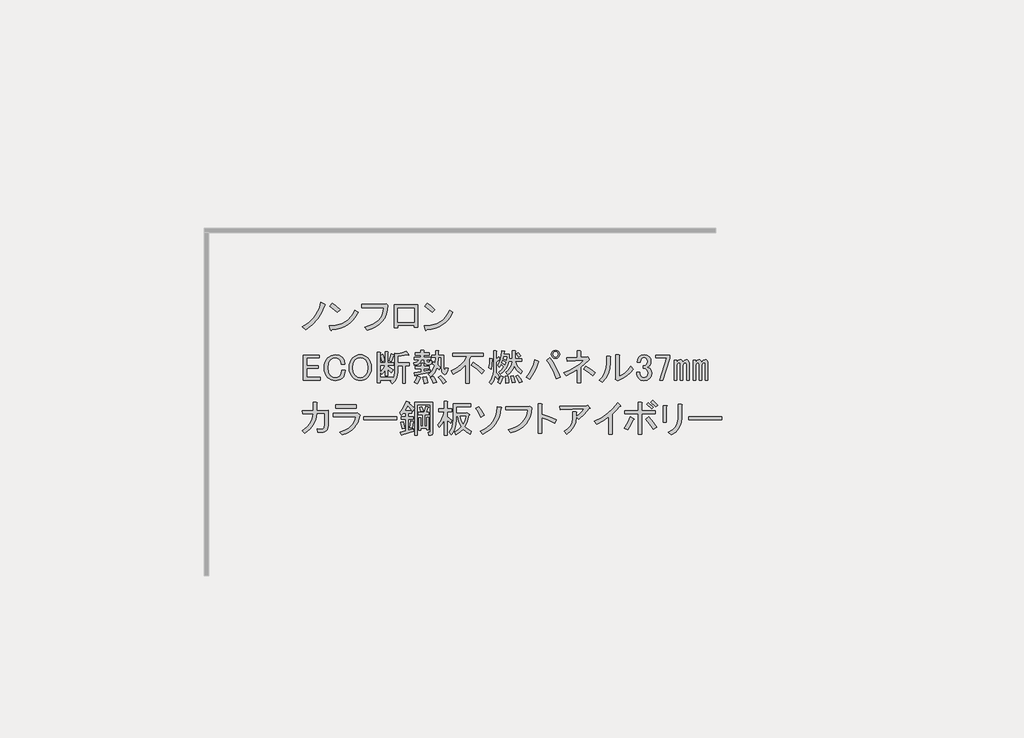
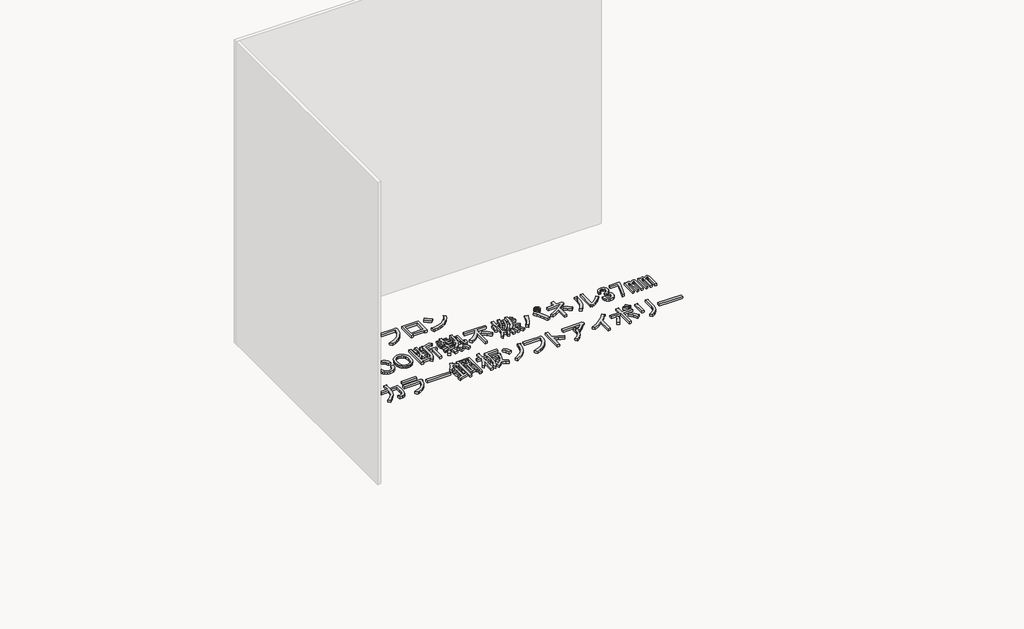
# One storey, part 95 of 117: 1 proxy.
"""IFC4 building model written with IfcOpenShell, lengths in millimetres."""

from ifc_helpers import new_model, si_unit, frame, origin, place, context, project, spatial, polyline, outline, extrude, element, save

model = new_model("IFC4")

# Units and contexts
model_context = context("Model", 3, world=origin())
ifc_project = project(units=[si_unit("LENGTHUNIT", "METRE", prefix="MILLI")], contexts=[model_context])

# Site, building, storey
site = spatial("IfcSite", under=ifc_project)
building = spatial("IfcBuilding", under=site)
storey = spatial("IfcBuildingStorey", under=building, Name="レベル 1", Elevation=500.0)

# Proxy
placement = place(None, origin())
element("IfcBuildingElementProxy", 1, Name="200㎜\u3000MS Pゴシック", ObjectType="200㎜\u3000MS Pゴシック", at=placement, inside=storey, context=model_context, shape_type="SweptSolid", body=[
    extrude(outline(polyline([(24940.1706985, 11396.4503118), (24914.5952502, 11336.6784775), (24886.146156, 11290.7001434), (24844.4782907, 11245.2965385), (24795.3389462, 11207.939142), (24767.7519457, 11229.7788507), (24815.4544673, 11260.2394971), (24855.1107805, 11298.7463519), (24872.4963381, 11322.6694538), (24887.8703435, 11350.7593423), (24901.2327969, 11383.0160173), (24912.5836981, 11419.4394788), (24943.6190736, 11405.6459786), (24946.7800841, 11401.0481452), (24940.1706985, 11396.4503118)])), frame((0.0, 0.0, 500.0), z_axis=(0.0, 0.0, 1.0), x_axis=(1.0, 0.0, 0.0)), (0.0, 0.0, 1.0), 25.0),
    extrude(outline(polyline([(25039.8977052, 11341.2763109), (24981.2753292, 11388.4041033), (25000.8161212, 11412.5427287), (25028.1157571, 11392.7145721), (25061.7374138, 11363.1160196), (25039.8977052, 11341.2763109)])), frame((0.0, 0.0, 500.0), z_axis=(0.0, 0.0, 1.0), x_axis=(1.0, 0.0, 0.0)), (0.0, 0.0, 1.0), 25.0),
    extrude(outline(polyline([(25201.9713328, 11341.2763109), (25185.447869, 11311.534076), (25166.3381239, 11285.5275808), (25144.6420975, 11263.2568252), (25120.3597898, 11244.7218093), (25093.4912008, 11229.922533), (25064.0363306, 11218.8589964), (25031.995179, 11211.5311994), (24997.3677461, 11207.939142), (24991.6204544, 11199.8929336), (24985.8731626, 11205.6402253), (24976.6774958, 11235.5261425), (25012.5082679, 11238.2022252), (25045.2857912, 11244.5062859), (25075.0100658, 11254.4383244), (25101.6810916, 11267.9983409), (25125.2988687, 11285.1863354), (25145.863397, 11306.0023077), (25163.3746766, 11330.446258), (25177.8327074, 11358.5181862), (25201.9713328, 11341.2763109)])), frame((0.0, 0.0, 500.0), z_axis=(0.0, 0.0, 1.0), x_axis=(1.0, 0.0, 0.0)), (0.0, 0.0, 1.0), 25.0),
    extrude(outline(polyline([(25252.7314136, 11226.3304757), (25286.514713, 11236.0110702), (25316.0234641, 11248.3857078), (25341.257667, 11263.4543884), (25362.2173217, 11281.217112), (25378.902428, 11301.6738786), (25391.3129862, 11324.8246882), (25399.4489961, 11350.6695409), (25403.3104577, 11379.2084365), (25230.8917049, 11379.2084365), (25230.8917049, 11404.4965202), (25405.6093744, 11404.4965202), (25421.7017914, 11407.9448953), (25434.3458332, 11396.4503118), (25430.825617, 11359.9550091), (25422.5638851, 11326.9080815), (25409.5606375, 11297.3095289), (25391.8158742, 11271.1593514), (25369.3295952, 11248.457549), (25342.1018005, 11229.2041216), (25310.1324901, 11213.3990692), (25273.421664, 11201.0423919), (25252.7314136, 11226.3304757)])), frame((0.0, 0.0, 500.0), z_axis=(0.0, 0.0, 1.0), x_axis=(1.0, 0.0, 0.0)), (0.0, 0.0, 1.0), 25.0),
    extrude(outline(polyline([(25667.455987, 11227.479934), (25641.0184449, 11227.479934), (25641.0184449, 11240.1239759), (25513.4285679, 11240.1239759), (25513.4285679, 11221.7326423), (25486.9910258, 11221.7326423), (25486.9910258, 11401.0481452), (25667.455987, 11401.0481452), (25667.455987, 11227.479934)]), holes=[polyline([(25513.4285679, 11375.7600614), (25513.4285679, 11265.4120596), (25641.0184449, 11265.4120596), (25641.0184449, 11375.7600614), (25513.4285679, 11375.7600614)])]), frame((0.0, 0.0, 500.0), z_axis=(0.0, 0.0, 1.0), x_axis=(1.0, 0.0, 0.0)), (0.0, 0.0, 1.0), 25.0),
    extrude(outline(polyline([(25943.5099049, 11341.2763109), (25926.9864411, 11311.534076), (25907.876696, 11285.5275808), (25886.1806696, 11263.2568252), (25861.8983619, 11244.7218093), (25835.0297729, 11229.922533), (25805.5749026, 11218.8589964), (25773.5337511, 11211.5311994), (25738.9063182, 11207.939142), (25733.1590264, 11199.8929336), (25727.4117347, 11205.6402253), (25718.2160679, 11235.5261425), (25754.0468399, 11238.2022252), (25786.8243633, 11244.5062859), (25816.5486378, 11254.4383244), (25843.2196637, 11267.9983409), (25866.8374407, 11285.1863354), (25887.4019691, 11306.0023077), (25904.9132486, 11330.446258), (25919.3712795, 11358.5181862), (25943.5099049, 11341.2763109)])), frame((0.0, 0.0, 500.0), z_axis=(0.0, 0.0, 1.0), x_axis=(1.0, 0.0, 0.0)), (0.0, 0.0, 1.0), 25.0),
    extrude(outline(polyline([(25781.4362772, 11341.2763109), (25722.8139013, 11388.4041033), (25742.3546933, 11412.5427287), (25769.6543291, 11392.7145721), (25803.2759859, 11363.1160196), (25781.4362772, 11341.2763109)])), frame((0.0, 0.0, 500.0), z_axis=(0.0, 0.0, 1.0), x_axis=(1.0, 0.0, 0.0)), (0.0, 0.0, 1.0), 25.0),
    extrude(outline(polyline([(24773.4992375, 11007.9448953), (24899.9396562, 11007.9448953), (24899.9396562, 10986.1051866), (24799.9367796, 10986.1051866), (24799.9367796, 10925.183894), (24893.0429061, 10925.183894), (24893.0429061, 10903.3441853), (24799.9367796, 10903.3441853), (24799.9367796, 10833.2272258), (24905.686948, 10833.2272258), (24905.686948, 10811.3875171), (24773.4992375, 10811.3875171), (24773.4992375, 11007.9448953)])), frame((0.0, 0.0, 500.0), z_axis=(0.0, 0.0, 1.0), x_axis=(1.0, 0.0, 0.0)), (0.0, 0.0, 1.0), 25.0),
    extrude(outline(polyline([(24937.7798252, 10909.091477), (24939.5758538, 10933.014579), (24944.9639399, 10954.2077173), (24953.9440832, 10972.6708921), (24966.516284, 10988.4041033), (24991.5170031, 11004.7838848), (25022.8397432, 11010.243812), (25053.5877541, 11005.358614), (25076.8642858, 10990.70302), (25092.6693381, 10967.1391238), (25098.7039944, 10937.8279358), (25071.116994, 10937.8279358), (25066.231796, 10959.0929153), (25056.1740354, 10974.6106031), (25040.9437123, 10984.9557283), (25022.8397432, 10988.4041033), (25003.2989512, 10984.3809991), (24986.0570759, 10972.3116864), (24977.0050914, 10960.6015794), (24970.5393882, 10946.1615089), (24965.3668256, 10909.091477), (24970.5393882, 10872.0214452), (24977.0050914, 10857.5813746), (24986.0570759, 10845.8712677), (25002.7242221, 10834.6640487), (25022.8397432, 10830.9283091), (25043.242629, 10834.0893196), (25058.4729521, 10843.572351), (25070.5422648, 10863.1131429), (25074.5653691, 10889.550685), (25102.1523695, 10889.550685), (25095.8303486, 10854.7795699), (25088.7899162, 10840.6268639), (25079.1632025, 10828.6293924), (25068.3151893, 10820.0802959), (25055.3119417, 10813.9737984), (25022.8397432, 10809.0886004), (24991.5170031, 10814.5485276), (24966.516284, 10830.9283091), (24953.9440832, 10846.5896791), (24944.9639399, 10864.8373305), (24939.5758538, 10885.6712631), (24937.7798252, 10909.091477)])), frame((0.0, 0.0, 500.0), z_axis=(0.0, 0.0, 1.0), x_axis=(1.0, 0.0, 0.0)), (0.0, 0.0, 1.0), 25.0),
    extrude(outline(polyline([(25133.1417667, 10910.2409354), (25134.8659542, 10933.0864201), (25140.0385168, 10953.3456236), (25148.6594544, 10971.0185457), (25160.7287671, 10986.1051866), (25173.4446501, 10996.6658352), (25187.4536738, 11004.2091557), (25202.7558381, 11008.7351479), (25219.3511431, 11010.243812), (25235.946448, 11008.7351479), (25251.2486123, 11004.2091557), (25265.257636, 10996.6658352), (25277.973519, 10986.1051866), (25290.0428317, 10971.0185457), (25298.6637694, 10953.3456236), (25303.836332, 10933.0864201), (25305.5605195, 10910.2409354), (25303.836332, 10887.3954506), (25298.6637694, 10867.1362472), (25290.0428317, 10849.463325), (25277.973519, 10834.3766841), (25265.257636, 10823.8160355), (25251.2486123, 10816.2727151), (25235.946448, 10811.7467228), (25219.3511431, 10810.2380587), (25202.7558381, 10811.7467228), (25187.4536738, 10816.2727151), (25173.4446501, 10823.8160355), (25160.7287671, 10834.3766841), (25148.6594544, 10849.463325), (25140.0385168, 10867.1362472), (25134.8659542, 10887.3954506), (25133.1417667, 10910.2409354)]), holes=[polyline([(25219.3511431, 10988.4041033), (25198.6608927, 10984.0936345), (25180.2695591, 10971.162228), (25171.7204626, 10960.0268502), (25165.6139651, 10946.1615089), (25160.7287671, 10910.2409354), (25165.6139651, 10874.3203619), (25171.7204626, 10860.4550205), (25180.2695591, 10849.3196427), (25198.6608927, 10836.3882363), (25219.3511431, 10832.0777674), (25240.0413934, 10836.3882363), (25258.432727, 10849.3196427), (25266.9818235, 10860.4550205), (25273.088321, 10874.3203619), (25277.973519, 10910.2409354), (25273.088321, 10946.1615089), (25266.9818235, 10960.0268502), (25258.432727, 10971.162228), (25240.0413934, 10984.0936345), (25219.3511431, 10988.4041033)])]), frame((0.0, 0.0, 500.0), z_axis=(0.0, 0.0, 1.0), x_axis=(1.0, 0.0, 0.0)), (0.0, 0.0, 1.0), 25.0),
    extrude(outline(polyline([(25444.3691101, 10964.2654779), (25461.6109854, 11017.1405621), (25482.3012357, 11011.3932704), (25484.0254232, 11008.2322599), (25480.002319, 11005.6459786), (25462.7604437, 10957.3687278), (25444.3691101, 10964.2654779)])), frame((0.0, 0.0, 500.0), z_axis=(0.0, 0.0, 1.0), x_axis=(1.0, 0.0, 0.0)), (0.0, 0.0, 1.0), 25.0),
    extrude(outline(polyline([(25598.3965292, 11012.5427287), (25596.6723417, 11007.9448953), (25589.2008624, 11010.243812), (25512.1871528, 10997.5997701), (25512.1871528, 10948.173061), (25604.143821, 10948.173061), (25604.143821, 10926.3333523), (25573.1084455, 10926.3333523), (25573.1084455, 10786.0994334), (25550.1192785, 10786.0994334), (25550.1192785, 10926.3333523), (25512.1871528, 10926.3333523), (25512.1871528, 10876.9066432), (25509.6008716, 10849.1041193), (25501.8420277, 10824.3189236), (25488.9106212, 10802.551056), (25470.8066522, 10783.8005167), (25453.5647769, 10803.3413086), (25463.9099021, 10812.5369755), (25374.2521506, 10812.5369755), (25374.2521506, 10790.6972668), (25351.2629836, 10790.6972668), (25351.2629836, 11029.784604), (25373.1026922, 11029.784604), (25377.9878902, 11027.4856873), (25374.2521506, 11022.8878539), (25374.2521506, 10947.0236026), (25416.7821096, 10947.0236026), (25416.7821096, 11034.3824374), (25435.1734433, 11034.3824374), (25440.0586413, 11032.0835207), (25436.3229016, 11027.4856873), (25436.3229016, 10947.0236026), (25480.002319, 10947.0236026), (25480.002319, 10928.632269), (25436.3229016, 10928.632269), (25436.3229016, 10919.4366022), (25476.5539439, 10892.9990601), (25462.7604437, 10871.1593514), (25436.3229016, 10897.5968935), (25436.3229016, 10844.7218093), (25416.7821096, 10844.7218093), (25416.7821096, 10892.9990601), (25403.5633386, 10873.1709035), (25389.1951092, 10857.3658512), (25376.5510673, 10875.7571848), (25398.390776, 10899.8958102), (25415.6326513, 10928.632269), (25374.2521506, 10928.632269), (25374.2521506, 10834.3766841), (25471.9561105, 10834.3766841), (25471.9561105, 10820.5831839), (25484.887517, 10844.7218093), (25489.1979858, 10878.0561015), (25489.1979858, 11022.8878539), (25511.0376945, 11017.1405621), (25547.2456326, 11024.6120414), (25577.7062789, 11037.8308125), (25598.3965292, 11012.5427287)])), frame((0.0, 0.0, 500.0), z_axis=(0.0, 0.0, 1.0), x_axis=(1.0, 0.0, 0.0)), (0.0, 0.0, 1.0), 25.0),
    extrude(outline(polyline([(25390.3445675, 10956.2192695), (25377.7005257, 11006.7954369), (25397.2413176, 11013.6921871), (25405.0001615, 10989.5535617), (25409.8853595, 10963.1160196), (25390.3445675, 10956.2192695)])), frame((0.0, 0.0, 500.0), z_axis=(0.0, 0.0, 1.0), x_axis=(1.0, 0.0, 0.0)), (0.0, 0.0, 1.0), 25.0),
    extrude(outline(polyline([(25734.0326148, 10840.1239759), (25744.0903754, 10812.82434), (25748.9755734, 10790.6972668), (25720.2391146, 10784.949975), (25717.6528333, 10806.5023191), (25709.8939894, 10836.6756008), (25734.0326148, 10840.1239759)])), frame((0.0, 0.0, 500.0), z_axis=(0.0, 0.0, 1.0), x_axis=(1.0, 0.0, 0.0)), (0.0, 0.0, 1.0), 25.0),
    extrude(outline(polyline([(25790.356074, 10787.2488917), (25782.022501, 10811.9622463), (25768.5163654, 10833.2272258), (25789.2066157, 10841.2734343), (25806.1611264, 10819.7210902), (25817.9430745, 10796.4445585), (25790.356074, 10787.2488917)])), frame((0.0, 0.0, 500.0), z_axis=(0.0, 0.0, 1.0), x_axis=(1.0, 0.0, 0.0)), (0.0, 0.0, 1.0), 25.0),
    extrude(outline(polyline([(25689.2037391, 10835.5261425), (25692.6521141, 10830.6409445), (25686.9048224, 10827.479934), (25677.1344264, 10801.9044857), (25666.214572, 10782.6510583), (25643.225405, 10794.1456418), (25655.8694469, 10817.709538), (25666.214572, 10844.7218093), (25689.2037391, 10835.5261425)])), frame((0.0, 0.0, 500.0), z_axis=(0.0, 0.0, 1.0), x_axis=(1.0, 0.0, 0.0)), (0.0, 0.0, 1.0), 25.0),
    extrude(outline(polyline([(25721.3885729, 10972.3116864), (25696.1004892, 10972.3116864), (25691.5026558, 10954.8542877), (25681.1575306, 10941.5636755), (25665.0651137, 10932.4398498), (25643.225405, 10927.4828107), (25638.6275716, 10947.0236026), (25663.9156553, 10955.6445403), (25671.3871346, 10962.9723373), (25675.4102388, 10972.3116864), (25639.7770299, 10972.3116864), (25639.7770299, 10990.70302), (25693.8015725, 10990.70302), (25693.8015725, 11007.9448953), (25650.1221551, 11007.9448953), (25650.1221551, 11026.3362289), (25693.8015725, 11026.3362289), (25693.8015725, 11044.7275626), (25715.6412812, 11044.7275626), (25720.5264792, 11042.4286459), (25716.7907395, 11037.8308125), (25716.7907395, 11026.3362289), (25759.3206985, 11026.3362289), (25759.3206985, 11007.9448953), (25716.7907395, 11007.9448953), (25716.7907395, 10990.70302), (25769.6658237, 10990.70302), (25769.6658237, 10972.3116864), (25740.9293649, 10972.3116864), (25740.9293649, 10959.6676445), (25742.3661878, 10954.4950819), (25746.6766567, 10952.7708944), (25757.0217818, 10952.7708944), (25760.7575215, 10955.9319049), (25760.4701569, 10965.4149363), (25780.0109489, 10963.1160196), (25777.137303, 10941.5636755), (25771.8210581, 10936.1755894), (25763.9185319, 10934.3795608), (25739.7799066, 10934.3795608), (25725.9864063, 10939.2647588), (25721.3885729, 10953.9203528), (25721.3885729, 10972.3116864)])), frame((0.0, 0.0, 500.0), z_axis=(0.0, 0.0, 1.0), x_axis=(1.0, 0.0, 0.0)), (0.0, 0.0, 1.0), 25.0),
    extrude(outline(polyline([(25852.4268251, 10989.5535617), (25830.5871164, 10989.5535617), (25825.989283, 10932.0806441), (25845.5300749, 10913.6893104), (25835.1849498, 10891.8496017), (25819.0925328, 10907.9420187), (25799.8391054, 10870.2972576), (25769.6658237, 10837.8250592), (25752.4239484, 10858.5153095), (25767.5105893, 10870.4409399), (25780.585678, 10885.5275808), (25791.6492147, 10903.7752321), (25800.7011992, 10925.183894), (25783.4593239, 10940.1268525), (25791.5055324, 10957.3687278), (25805.2990326, 10947.0236026), (25807.5979493, 10989.5535617), (25780.0109489, 10989.5535617), (25780.0109489, 11007.9448953), (25807.5979493, 11007.9448953), (25807.5979493, 11042.4286459), (25829.437658, 11042.4286459), (25834.322856, 11040.1297292), (25830.5871164, 11035.5318957), (25830.5871164, 11007.9448953), (25871.967617, 11007.9448953), (25871.967617, 10911.3903937), (25875.4159921, 10887.2517683), (25878.6488437, 10885.2402162), (25881.4506484, 10888.4012267), (25885.7611173, 10910.2409354), (25905.3019092, 10903.3441853), (25900.775917, 10876.5474374), (25892.945232, 10860.5268616), (25881.8098542, 10855.2824579), (25867.3697836, 10860.8142262), (25860.8322393, 10868.1420232), (25856.1625647, 10879.780289), (25852.4268251, 10915.9882271), (25852.4268251, 10989.5535617)])), frame((0.0, 0.0, 500.0), z_axis=(0.0, 0.0, 1.0), x_axis=(1.0, 0.0, 0.0)), (0.0, 0.0, 1.0), 25.0),
    extrude(outline(polyline([(25651.2716134, 10850.4691011), (25649.2600613, 10845.5839031), (25645.5243217, 10847.020726), (25639.7770299, 10871.1593514), (25694.9510308, 10879.2055599), (25694.9510308, 10902.1947269), (25651.2716134, 10902.1947269), (25651.2716134, 10920.5860605), (25694.9510308, 10920.5860605), (25694.9510308, 10943.5752276), (25713.3423645, 10943.5752276), (25718.2275625, 10941.2763109), (25714.4918228, 10936.6784775), (25714.4918228, 10920.5860605), (25759.3206985, 10920.5860605), (25759.3206985, 10902.1947269), (25714.4918228, 10902.1947269), (25714.4918228, 10882.6539349), (25765.0679903, 10891.8496017), (25765.0679903, 10875.7571848), (25651.2716134, 10850.4691011)])), frame((0.0, 0.0, 500.0), z_axis=(0.0, 0.0, 1.0), x_axis=(1.0, 0.0, 0.0)), (0.0, 0.0, 1.0), 25.0),
    extrude(outline(polyline([(25848.97845, 10845.8712677), (25873.6918046, 10824.6062881), (25892.6578674, 10799.8929336), (25866.2203253, 10784.949975), (25846.9668979, 10814.5485276), (25828.2881997, 10834.3766841), (25848.97845, 10845.8712677)])), frame((0.0, 0.0, 500.0), z_axis=(0.0, 0.0, 1.0), x_axis=(1.0, 0.0, 0.0)), (0.0, 0.0, 1.0), 25.0),
    extrude(outline(polyline([(26167.3784135, 10861.9636846), (26128.2968295, 10900.1831748), (26086.9163289, 10929.7817274), (26103.0087458, 10950.4719777), (26146.6881632, 10922.3102481), (26188.0686638, 10883.8033933), (26167.3784135, 10861.9636846)])), frame((0.0, 0.0, 500.0), z_axis=(0.0, 0.0, 1.0), x_axis=(1.0, 0.0, 0.0)), (0.0, 0.0, 1.0), 25.0),
    extrude(outline(polyline([(25940.9351182, 11022.8878539), (26182.3213721, 11022.8878539), (26182.3213721, 10997.5997701), (26082.3184955, 10997.5997701), (26071.9733703, 10973.4611447), (26071.9733703, 10787.2488917), (26045.5358282, 10787.2488917), (26045.5358282, 10934.3795608), (26024.7018956, 10911.1030291), (26001.2816816, 10890.7001434), (25975.2751864, 10873.1709035), (25946.6824099, 10858.5153095), (25930.589993, 10884.9528516), (25970.174465, 10905.3557374), (26003.8679629, 10930.9311857), (26031.6704868, 10961.6791966), (26053.5820367, 10997.5997701), (25940.9351182, 10997.5997701), (25940.9351182, 11022.8878539)])), frame((0.0, 0.0, 500.0), z_axis=(0.0, 0.0, 1.0), x_axis=(1.0, 0.0, 0.0)), (0.0, 0.0, 1.0), 25.0),
    extrude(outline(polyline([(26354.7401249, 10788.3983501), (26355.3148541, 10815.4106213), (26352.4412082, 10843.572351), (26371.9820002, 10844.7218093), (26378.3040211, 10818.5716318), (26378.8787503, 10790.6972668), (26354.7401249, 10788.3983501)])), frame((0.0, 0.0, 500.0), z_axis=(0.0, 0.0, 1.0), x_axis=(1.0, 0.0, 0.0)), (0.0, 0.0, 1.0), 25.0),
    extrude(outline(polyline([(26335.1993329, 10840.1239759), (26326.5783953, 10809.6633296), (26312.2101659, 10782.6510583), (26292.6693739, 10795.2951002), (26306.7502387, 10820.0084547), (26316.8079993, 10848.1701844), (26335.1993329, 10840.1239759)])), frame((0.0, 0.0, 500.0), z_axis=(0.0, 0.0, 1.0), x_axis=(1.0, 0.0, 0.0)), (0.0, 0.0, 1.0), 25.0),
    extrude(outline(polyline([(26250.1394149, 10978.0589781), (26254.7372483, 10975.7600614), (26250.1394149, 10971.162228), (26248.9899565, 10931.5059149), (26243.2426647, 10897.5968935), (26224.8513311, 10910.2409354), (26230.5986229, 10944.7246859), (26231.7480812, 10981.5073532), (26250.1394149, 10978.0589781)])), frame((0.0, 0.0, 500.0), z_axis=(0.0, 0.0, 1.0), x_axis=(1.0, 0.0, 0.0)), (0.0, 0.0, 1.0), 25.0),
    extrude(outline(polyline([(26301.8650407, 10996.4503118), (26311.0607075, 10979.2084365), (26312.4975305, 10973.1737801), (26307.6123325, 10973.4611447), (26281.1747904, 10952.7708944), (26281.1747904, 10868.8604347), (26294.9682906, 10856.5037574), (26306.4628741, 10840.1239759), (26293.8188322, 10819.4337256), (26275.4274986, 10844.7218093), (26263.6455505, 10808.8012358), (26242.0932064, 10779.2026832), (26227.1502478, 10797.5940169), (26242.2368887, 10816.3445562), (26253.0130607, 10836.9629654), (26259.478764, 10859.4492444), (26261.6339984, 10883.8033933), (26261.6339984, 11041.2791875), (26280.025332, 11041.2791875), (26284.91053, 11038.9802708), (26281.1747904, 11034.3824374), (26281.1747904, 10975.7600614), (26301.8650407, 10996.4503118)])), frame((0.0, 0.0, 500.0), z_axis=(0.0, 0.0, 1.0), x_axis=(1.0, 0.0, 0.0)), (0.0, 0.0, 1.0), 25.0),
    extrude(outline(polyline([(26452.4440848, 11027.4856873), (26474.2837935, 11003.3470619), (26457.0419182, 10991.8524784), (26450.4325327, 11003.3470619), (26437.5011262, 11017.1405621), (26452.4440848, 11027.4856873)])), frame((0.0, 0.0, 500.0), z_axis=(0.0, 0.0, 1.0), x_axis=(1.0, 0.0, 0.0)), (0.0, 0.0, 1.0), 25.0),
    extrude(outline(polyline([(26462.78921, 10790.6972668), (26449.5704389, 10818.8589964), (26432.9032928, 10843.572351), (26451.2946265, 10851.6185594), (26470.2606893, 10828.6293924), (26485.778377, 10801.0423919), (26462.78921, 10790.6972668)])), frame((0.0, 0.0, 500.0), z_axis=(0.0, 0.0, 1.0), x_axis=(1.0, 0.0, 0.0)), (0.0, 0.0, 1.0), 25.0),
    extrude(outline(polyline([(26413.3625008, 10845.8712677), (26431.7538345, 10796.4445585), (26407.6152091, 10791.8467251), (26393.8217089, 10842.4228926), (26413.3625008, 10845.8712677)])), frame((0.0, 0.0, 500.0), z_axis=(0.0, 0.0, 1.0), x_axis=(1.0, 0.0, 0.0)), (0.0, 0.0, 1.0), 25.0),
    extrude(outline(polyline([(26474.2837935, 10860.8142262), (26443.5357826, 10891.2748726), (26422.5581677, 10925.183894), (26414.1527535, 10903.0568207), (26402.7300111, 10883.8033933), (26388.2899405, 10867.4236118), (26370.8325418, 10853.9174761), (26357.0390416, 10872.3088098), (26377.8729742, 10891.2030314), (26393.2469797, 10912.2524875), (26403.161058, 10935.457178), (26407.6152091, 10960.8171029), (26378.8787503, 10960.8171029), (26370.904383, 10930.2127742), (26357.3264062, 10902.7694561), (26338.1448199, 10878.4871484), (26313.3596242, 10857.3658512), (26300.7155823, 10873.4582681), (26326.5783953, 10895.0106122), (26342.096083, 10915.9882271), (26320.2563743, 10935.5290191), (26306.4628741, 10914.8387688), (26292.6693739, 10929.7817274), (26305.0978923, 10948.8196313), (26314.7964472, 10973.7485093), (26321.7650384, 11004.5683614), (26326.0036661, 11041.2791875), (26346.6939164, 11038.9802708), (26350.1422915, 11036.3939895), (26344.3949997, 11033.232979), (26342.096083, 11014.8416454), (26385.7755004, 11014.8416454), (26382.3271253, 10979.2084365), (26407.6152091, 10979.2084365), (26407.6152091, 11041.2791875), (26429.4549178, 11041.2791875), (26434.3401158, 11038.9802708), (26430.6043761, 11034.3824374), (26430.6043761, 10979.2084365), (26480.0310853, 10979.2084365), (26480.0310853, 10960.8171029), (26430.6043761, 10960.8171029), (26437.1419205, 10939.0492353), (26448.7083452, 10918.5745084), (26465.3036501, 10899.3929222), (26486.9278354, 10881.5044766), (26474.2837935, 10860.8142262)]), holes=[polyline([(26350.1422915, 10930.9311857), (26357.0390416, 10950.4719777), (26331.7509579, 10966.5643946), (26326.0036661, 10949.3225193), (26350.1422915, 10930.9311857)]), polyline([(26339.7971663, 10996.4503118), (26336.3487913, 10980.3578948), (26361.636875, 10966.5643946), (26366.2347084, 10996.4503118), (26339.7971663, 10996.4503118)])]), frame((0.0, 0.0, 500.0), z_axis=(0.0, 0.0, 1.0), x_axis=(1.0, 0.0, 0.0)), (0.0, 0.0, 1.0), 25.0),
    extrude(outline(polyline([(26699.5776305, 10987.254645), (26726.230696, 10950.5438188), (26748.7169751, 10912.8272167), (26767.0364675, 10874.1048384), (26781.1891735, 10834.3766841), (26750.153798, 10824.031559), (26734.7079514, 10867.1362472), (26717.1068704, 10905.643102), (26697.350555, 10939.5521234), (26675.4390051, 10968.8633113), (26699.5776305, 10987.254645)])), frame((0.0, 0.0, 500.0), z_axis=(0.0, 0.0, 1.0), x_axis=(1.0, 0.0, 0.0)), (0.0, 0.0, 1.0), 25.0),
    extrude(outline(polyline([(26612.2187958, 10960.8171029), (26616.2419, 10955.3571757), (26609.919879, 10950.4719777), (26597.9942486, 10915.0542922), (26582.9076078, 10881.217112), (26564.6599564, 10848.960437), (26543.2512946, 10818.2842672), (26516.8137525, 10835.5261425), (26540.018443, 10866.9925649), (26559.056347, 10900.4705394), (26573.9274644, 10935.960066), (26584.6317953, 10973.4611447), (26612.2187958, 10960.8171029)])), frame((0.0, 0.0, 500.0), z_axis=(0.0, 0.0, 1.0), x_axis=(1.0, 0.0, 0.0)), (0.0, 0.0, 1.0), 25.0),
    extrude(outline(polyline([(26745.5559646, 10981.5073532), (26732.9119227, 10983.8062699), (26722.5667975, 10990.70302), (26715.6700474, 11001.0481452), (26713.3711307, 11013.6921871), (26715.6700474, 11026.3362289), (26722.5667975, 11036.6813541), (26732.9119227, 11043.5781042), (26745.5559646, 11045.8770209), (26758.2000065, 11043.5781042), (26768.5451316, 11036.6813541), (26775.4418817, 11026.3362289), (26777.7407984, 11013.6921871), (26775.4418817, 11001.0481452), (26768.5451316, 10990.70302), (26758.2000065, 10983.8062699), (26745.5559646, 10981.5073532)]), holes=[polyline([(26745.5559646, 10993.0019367), (26753.8895376, 10994.4387597), (26760.4989232, 10998.7492285), (26764.809392, 11005.358614), (26766.2462149, 11013.6921871), (26764.809392, 11022.0257601), (26760.4989232, 11028.6351456), (26753.8895376, 11032.9456145), (26745.5559646, 11034.3824374), (26737.2223915, 11032.9456145), (26730.613006, 11028.6351456), (26726.3025372, 11022.0257601), (26724.8657143, 11013.6921871), (26726.3025372, 11005.358614), (26730.613006, 10998.7492285), (26737.2223915, 10994.4387597), (26745.5559646, 10993.0019367)])]), frame((0.0, 0.0, 500.0), z_axis=(0.0, 0.0, 1.0), x_axis=(1.0, 0.0, 0.0)), (0.0, 0.0, 1.0), 25.0),
    extrude(outline(polyline([(26989.2411352, 10991.8524784), (26996.1378853, 10994.1513951), (27008.7819272, 10976.9095198), (27009.9313856, 10970.8748634), (27004.1840938, 10968.8633113), (26940.9638844, 10912.5398521), (26940.9638844, 10791.8467251), (26914.5263423, 10791.8467251), (26914.5263423, 10894.1485184), (26874.2953, 10870.0098931), (26829.4664243, 10848.1701844), (26809.9256323, 10868.8604347), (26855.4729195, 10888.3293855), (26896.7097379, 10911.1030291), (26933.6360874, 10937.1813655), (26966.2519682, 10966.5643946), (26836.3631744, 10960.8171029), (26832.9147993, 10986.1051866), (26914.5263423, 10988.4041033), (26914.5263423, 11040.1297292), (26937.5155094, 11040.1297292), (26943.5501657, 11036.6813541), (26940.9638844, 11030.9340623), (26940.9638844, 10989.5535617), (26989.2411352, 10991.8524784)])), frame((0.0, 0.0, 500.0), z_axis=(0.0, 0.0, 1.0), x_axis=(1.0, 0.0, 0.0)), (0.0, 0.0, 1.0), 25.0),
    extrude(outline(polyline([(27035.2194693, 10848.1701844), (26998.1494375, 10877.4813723), (26965.1025098, 10898.7463519), (26982.3443851, 10920.5860605), (27021.1386045, 10897.3095289), (27054.7602613, 10871.1593514), (27035.2194693, 10848.1701844)])), frame((0.0, 0.0, 500.0), z_axis=(0.0, 0.0, 1.0), x_axis=(1.0, 0.0, 0.0)), (0.0, 0.0, 1.0), 25.0),
    extrude(outline(polyline([(27242.2139293, 10841.2734343), (27266.9991251, 10853.4864292), (27290.7785447, 10870.5846222), (27313.5521883, 10892.5680132), (27335.3200559, 10919.4366022), (27351.4124728, 10897.5968935), (27328.1359412, 10869.7943696), (27301.9857636, 10846.1586322), (27272.9619403, 10826.6896814), (27241.064471, 10811.3875171), (27231.8688042, 10806.7896837), (27213.4774705, 10820.5831839), (27215.7763872, 10826.3304757), (27215.7763872, 11011.3932704), (27239.9150126, 11011.3932704), (27245.6623044, 11007.9448953), (27242.2139293, 11002.1976035), (27242.2139293, 10841.2734343)])), frame((0.0, 0.0, 500.0), z_axis=(0.0, 0.0, 1.0), x_axis=(1.0, 0.0, 0.0)), (0.0, 0.0, 1.0), 25.0),
    extrude(outline(polyline([(27088.1865102, 10810.2380587), (27113.3309116, 10839.4774056), (27131.2911984, 10872.0214452), (27142.0673704, 10907.8701775), (27145.6594278, 10947.0236026), (27145.6594278, 10998.7492285), (27169.7980532, 10998.7492285), (27175.5453449, 10995.3008534), (27172.0969699, 10989.5535617), (27172.0969699, 10948.173061), (27168.2893891, 10902.4102504), (27156.8666467, 10861.67632), (27137.8287427, 10825.9712699), (27111.1756772, 10795.2951002), (27088.1865102, 10810.2380587)])), frame((0.0, 0.0, 500.0), z_axis=(0.0, 0.0, 1.0), x_axis=(1.0, 0.0, 0.0)), (0.0, 0.0, 1.0), 25.0),
    extrude(outline(polyline([(27383.5973066, 10951.621436), (27387.9077755, 10975.7600614), (27400.8391819, 10995.3008534), (27417.506328, 11006.5080724), (27437.6218492, 11010.243812), (27460.3236516, 11006.5080724), (27477.8528915, 10995.3008534), (27488.1980167, 10979.2084365), (27491.6463917, 10958.5181862), (27488.7727459, 10938.402665), (27480.1518082, 10924.0344356), (27471.8182352, 10917.7124147), (27462.9099329, 10914.8387688), (27482.4507249, 10903.3441853), (27492.7958501, 10887.2517683), (27496.2442251, 10866.561518), (27492.2211209, 10843.572351), (27480.1518082, 10825.1810173), (27460.8983808, 10813.1117046), (27435.3229325, 10809.0886004), (27413.1958592, 10813.1117046), (27395.0918902, 10825.1810173), (27383.0225775, 10842.7102572), (27378.9994732, 10863.1131429), (27378.9994732, 10872.3088098), (27405.4370153, 10872.3088098), (27405.4370153, 10864.2626013), (27408.0232966, 10850.4691011), (27415.7821405, 10838.9745175), (27424.6904427, 10832.9398612), (27435.3229325, 10830.9283091), (27448.8290681, 10833.2272258), (27459.4615579, 10840.1239759), (27466.358308, 10851.905924), (27468.6572247, 10868.8604347), (27466.358308, 10883.2286641), (27459.4615579, 10894.1485184), (27449.6911619, 10901.0452686), (27438.7713075, 10903.3441853), (27429.5756407, 10903.3441853), (27429.5756407, 10922.8849772), (27436.4723908, 10922.8849772), (27446.5301514, 10925.183894), (27456.0131828, 10932.0806441), (27462.9099329, 10943.287863), (27465.2088496, 10958.5181862), (27462.9099329, 10972.0243218), (27456.0131828, 10982.6568116), (27447.9669744, 10987.8293741), (27437.6218492, 10989.5535617), (27427.8514532, 10987.5420096), (27419.2305156, 10981.5073532), (27412.0464009, 10969.4380405), (27408.8853904, 10951.621436), (27383.5973066, 10951.621436)])), frame((0.0, 0.0, 500.0), z_axis=(0.0, 0.0, 1.0), x_axis=(1.0, 0.0, 0.0)), (0.0, 0.0, 1.0), 25.0),
    extrude(outline(polyline([(27530.7279757, 11007.9448953), (27639.9265191, 11007.9448953), (27639.9265191, 10982.6568116), (27584.7525182, 10811.3875171), (27559.4644345, 10811.3875171), (27614.6384354, 10986.1051866), (27530.7279757, 10986.1051866), (27530.7279757, 11007.9448953)])), frame((0.0, 0.0, 500.0), z_axis=(0.0, 0.0, 1.0), x_axis=(1.0, 0.0, 0.0)), (0.0, 0.0, 1.0), 25.0),
    extrude(outline(polyline([(27692.8016033, 10810.2380587), (27673.2608114, 10810.2380587), (27673.2608114, 10967.713853), (27692.8016033, 10967.713853), (27692.8016033, 10950.4719777), (27704.870916, 10965.9896654), (27718.0896871, 10971.162228), (27727.2853539, 10969.7254051), (27734.182104, 10965.4149363), (27741.0788541, 10951.621436), (27754.0102606, 10966.27703), (27767.5163962, 10971.162228), (27775.8499693, 10969.7254051), (27782.4593548, 10965.4149363), (27787.6319174, 10956.7939986), (27789.3561049, 10944.7246859), (27789.3561049, 10810.2380587), (27769.8153129, 10810.2380587), (27769.8153129, 10934.3795608), (27767.2290316, 10943.8625922), (27759.4701878, 10947.0236026), (27749.1250626, 10942.4257692), (27743.0904062, 10933.8048316), (27741.0788541, 10924.0344356), (27741.0788541, 10810.2380587), (27721.5380621, 10810.2380587), (27721.5380621, 10934.3795608), (27718.9517808, 10943.8625922), (27711.192937, 10947.0236026), (27700.8478118, 10942.4257692), (27694.8131555, 10933.8048316), (27692.8016033, 10924.0344356), (27692.8016033, 10810.2380587)])), frame((0.0, 0.0, 500.0), z_axis=(0.0, 0.0, 1.0), x_axis=(1.0, 0.0, 0.0)), (0.0, 0.0, 1.0), 25.0),
    extrude(outline(polyline([(27914.6470653, 10971.162228), (27922.9806383, 10969.7254051), (27929.5900239, 10965.4149363), (27934.7625864, 10956.7939986), (27936.486774, 10944.7246859), (27936.486774, 10810.2380587), (27916.945982, 10810.2380587), (27916.945982, 10934.3795608), (27914.3597007, 10943.8625922), (27906.6008568, 10947.0236026), (27896.2557317, 10942.4257692), (27890.2210753, 10933.8048316), (27888.2095232, 10924.0344356), (27888.2095232, 10810.2380587), (27868.6687312, 10810.2380587), (27868.6687312, 10934.3795608), (27866.0824499, 10943.8625922), (27858.323606, 10947.0236026), (27847.9784809, 10942.4257692), (27841.9438245, 10933.8048316), (27839.9322724, 10924.0344356), (27839.9322724, 10810.2380587), (27820.3914804, 10810.2380587), (27820.3914804, 10967.713853), (27839.9322724, 10967.713853), (27839.9322724, 10950.4719777), (27852.0015851, 10965.9896654), (27865.2203561, 10971.162228), (27874.416023, 10969.7254051), (27881.3127731, 10965.4149363), (27888.2095232, 10951.621436), (27901.1409296, 10966.27703), (27914.6470653, 10971.162228)])), frame((0.0, 0.0, 500.0), z_axis=(0.0, 0.0, 1.0), x_axis=(1.0, 0.0, 0.0)), (0.0, 0.0, 1.0), 25.0),
    extrude(outline(polyline([(24943.6190736, 10552.7708944), (24878.0999475, 10550.4719777), (24869.8382156, 10504.206279), (24851.94977, 10463.1131429), (24824.4346107, 10427.1925694), (24787.2927377, 10396.4445585), (24767.7519457, 10415.9853505), (24802.7385843, 10444.2189213), (24828.3858738, 10476.0445494), (24844.6938142, 10511.4622349), (24851.6624054, 10550.4719777), (24770.0508624, 10548.173061), (24767.7519457, 10571.162228), (24852.8118638, 10573.4611447), (24852.8118638, 10637.8308125), (24876.9504892, 10637.8308125), (24883.8472393, 10634.3824374), (24879.2494059, 10628.6351456), (24879.2494059, 10573.4611447), (24970.0566157, 10576.9095198), (24970.0566157, 10505.643102), (24967.4703344, 10457.6532158), (24959.7114905, 10426.3304757), (24953.102105, 10416.2727151), (24943.6190736, 10409.0886004), (24931.2623963, 10404.7781316), (24916.0320731, 10403.3413086), (24888.4450727, 10403.3413086), (24884.9966976, 10432.0777674), (24914.8826148, 10429.7788507), (24928.9634796, 10432.6524966), (24936.7223235, 10441.2734343), (24941.8948861, 10466.561518), (24943.6190736, 10505.643102), (24943.6190736, 10552.7708944)])), frame((0.0, 0.0, 500.0), z_axis=(0.0, 0.0, 1.0), x_axis=(1.0, 0.0, 0.0)), (0.0, 0.0, 1.0), 25.0),
    extrude(outline(polyline([(25058.4729521, 10406.7896837), (25108.1151847, 10425.1091762), (25128.3564279, 10437.2323697), (25145.5444223, 10451.3311948), (25159.679168, 10467.4056515), (25170.7606649, 10485.4557397), (25178.7889131, 10505.4814594), (25183.7639125, 10527.4828107), (25009.046243, 10527.4828107), (25009.046243, 10552.7708944), (25184.9133709, 10552.7708944), (25195.258496, 10556.2192695), (25215.9487464, 10543.5752276), (25218.8223922, 10538.1153004), (25213.6498297, 10533.2301024), (25207.5253719, 10505.7508637), (25198.3476653, 10480.7860651), (25186.1167101, 10458.3357067), (25170.832506, 10438.3997884), (25152.4950533, 10420.9783102), (25131.1043517, 10406.0712722), (25106.6604015, 10393.6786744), (25079.1632025, 10383.8005167), (25058.4729521, 10406.7896837)])), frame((0.0, 0.0, 500.0), z_axis=(0.0, 0.0, 1.0), x_axis=(1.0, 0.0, 0.0)), (0.0, 0.0, 1.0), 25.0),
    extrude(outline(polyline([(25188.3617459, 10593.0019367), (25029.7364933, 10593.0019367), (25029.7364933, 10618.2900205), (25188.3617459, 10618.2900205), (25188.3617459, 10593.0019367)])), frame((0.0, 0.0, 500.0), z_axis=(0.0, 0.0, 1.0), x_axis=(1.0, 0.0, 0.0)), (0.0, 0.0, 1.0), 25.0),
    extrude(outline(polyline([(25247.3979269, 10502.1947269), (25247.3979269, 10527.4828107), (25503.7271394, 10527.4828107), (25503.7271394, 10502.1947269), (25247.3979269, 10502.1947269)])), frame((0.0, 0.0, 500.0), z_axis=(0.0, 0.0, 1.0), x_axis=(1.0, 0.0, 0.0)), (0.0, 0.0, 1.0), 25.0),
    extrude(outline(polyline([(25631.0411464, 10568.8633113), (25589.6606458, 10612.5427287), (25567.8209371, 10573.4611447), (25622.994938, 10573.4611447), (25622.994938, 10555.0698111), (25596.5573959, 10555.0698111), (25596.5573959, 10526.3333523), (25634.4895215, 10526.3333523), (25634.4895215, 10507.9420187), (25596.5573959, 10507.9420187), (25596.5573959, 10420.5831839), (25635.6389799, 10430.9283091), (25637.9378966, 10411.3875171), (25545.9812284, 10386.0994334), (25543.6823117, 10380.3521416), (25539.0844783, 10383.8005167), (25532.1877282, 10406.7896837), (25577.0166039, 10415.9853505), (25577.0166039, 10507.9420187), (25539.0844783, 10507.9420187), (25539.0844783, 10526.3333523), (25577.0166039, 10526.3333523), (25577.0166039, 10555.0698111), (25555.1768952, 10555.0698111), (25540.2339366, 10536.6784775), (25527.5898948, 10557.3687278), (25555.7516244, 10595.0134888), (25580.464979, 10645.8770209), (25602.3046876, 10640.1297292), (25605.7530627, 10636.3939895), (25600.0057709, 10634.3824374), (25598.8563126, 10630.9340623), (25643.6851883, 10593.0019367), (25631.0411464, 10568.8633113)])), frame((0.0, 0.0, 500.0), z_axis=(0.0, 0.0, 1.0), x_axis=(1.0, 0.0, 0.0)), (0.0, 0.0, 1.0), 25.0),
    extrude(outline(polyline([(25698.8591892, 10605.6459786), (25706.0433039, 10590.4156554), (25711.5032311, 10570.0127697), (25694.2613558, 10564.2654779), (25682.7667723, 10601.0481452), (25698.8591892, 10605.6459786)])), frame((0.0, 0.0, 500.0), z_axis=(0.0, 0.0, 1.0), x_axis=(1.0, 0.0, 0.0)), (0.0, 0.0, 1.0), 25.0),
    extrude(outline(polyline([(25751.7342734, 10604.4965202), (25754.3205547, 10601.0481452), (25748.2858984, 10597.5997701), (25735.6418565, 10559.6676445), (25756.3321068, 10559.6676445), (25756.3321068, 10541.2763109), (25725.2967313, 10541.2763109), (25725.2967313, 10452.7680178), (25740.2396899, 10452.7680178), (25740.2396899, 10520.5860605), (25756.3321068, 10520.5860605), (25756.3321068, 10426.3304757), (25740.2396899, 10426.3304757), (25740.2396899, 10434.3766841), (25694.2613558, 10434.3766841), (25694.2613558, 10421.7326423), (25678.1689389, 10421.7326423), (25678.1689389, 10518.2871438), (25694.2613558, 10518.2871438), (25694.2613558, 10452.7680178), (25709.2043144, 10452.7680178), (25709.2043144, 10541.2763109), (25673.5711055, 10541.2763109), (25673.5711055, 10559.6676445), (25719.5494396, 10559.6676445), (25729.8945647, 10609.0943537), (25751.7342734, 10604.4965202)])), frame((0.0, 0.0, 500.0), z_axis=(0.0, 0.0, 1.0), x_axis=(1.0, 0.0, 0.0)), (0.0, 0.0, 1.0), 25.0),
    extrude(outline(polyline([(25645.984105, 10637.8308125), (25786.218024, 10637.8308125), (25786.218024, 10397.5940169), (25782.4822843, 10386.3867979), (25771.2750654, 10382.6510583), (25755.1826485, 10382.6510583), (25750.5848151, 10404.490767), (25762.0793986, 10404.490767), (25765.5277736, 10405.6402253), (25766.677232, 10409.0886004), (25766.677232, 10619.4394788), (25665.524897, 10619.4394788), (25665.524897, 10380.3521416), (25645.984105, 10380.3521416), (25645.984105, 10637.8308125)])), frame((0.0, 0.0, 500.0), z_axis=(0.0, 0.0, 1.0), x_axis=(1.0, 0.0, 0.0)), (0.0, 0.0, 1.0), 25.0),
    extrude(outline(polyline([(25634.4895215, 10489.550685), (25637.0758028, 10486.3896746), (25633.3400632, 10483.8033933), (25625.2938547, 10436.6756008), (25606.9025211, 10438.9745175), (25612.6498128, 10492.9990601), (25634.4895215, 10489.550685)])), frame((0.0, 0.0, 500.0), z_axis=(0.0, 0.0, 1.0), x_axis=(1.0, 0.0, 0.0)), (0.0, 0.0, 1.0), 25.0),
    extrude(outline(polyline([(25557.4758119, 10488.4012267), (25568.9703954, 10436.6756008), (25548.2801451, 10430.9283091), (25536.7855616, 10482.6539349), (25557.4758119, 10488.4012267)])), frame((0.0, 0.0, 500.0), z_axis=(0.0, 0.0, 1.0), x_axis=(1.0, 0.0, 0.0)), (0.0, 0.0, 1.0), 25.0),
    extrude(outline(polyline([(25957.4873184, 10409.0886004), (25986.2237772, 10426.3304757), (26008.0634859, 10448.1701844), (25990.2468815, 10490.1254142), (25980.4764855, 10530.9311857), (25967.8324436, 10530.9311857), (25967.8324436, 10506.7925603), (25965.3898446, 10465.0528539), (25958.0620476, 10430.6409445), (25945.8490526, 10403.5568321), (25928.7508596, 10383.8005167), (25914.9573594, 10406.7896837), (25928.0324482, 10424.1752413), (25937.3717973, 10446.4459968), (25942.9754067, 10473.6019504), (25944.8432766, 10505.643102), (25944.8432766, 10626.3362289), (26081.6288204, 10626.3362289), (26081.6288204, 10604.4965202), (25967.8324436, 10604.4965202), (25967.8324436, 10552.7708944), (26047.1450699, 10552.7708944), (26052.8923616, 10558.5181862), (26072.4331536, 10544.7246859), (26073.8699766, 10540.9889463), (26068.9847786, 10536.6784775), (26056.6281013, 10490.1254142), (26037.9494031, 10449.3196427), (26056.9154659, 10430.9283091), (26088.5255706, 10412.5369755), (26079.3299037, 10388.3983501), (26051.4555387, 10404.490767), (26023.0064445, 10429.7788507), (25998.5804545, 10405.3528608), (25966.6829852, 10384.949975), (25957.4873184, 10409.0886004)]), holes=[polyline([(26002.3161942, 10530.9311857), (26010.3624026, 10497.8842581), (26023.0064445, 10470.0098931), (26035.6504864, 10496.1600706), (26043.6966948, 10530.9311857), (26002.3161942, 10530.9311857)])]), frame((0.0, 0.0, 500.0), z_axis=(0.0, 0.0, 1.0), x_axis=(1.0, 0.0, 0.0)), (0.0, 0.0, 1.0), 25.0),
    extrude(outline(polyline([(25874.7263171, 10380.3521416), (25874.7263171, 10499.8958102), (25856.9097126, 10465.6994242), (25837.9436498, 10443.572351), (25826.4490663, 10464.2626013), (25843.6909416, 10486.9644037), (25857.4844418, 10511.3903937), (25867.829567, 10537.5405712), (25874.7263171, 10565.4149363), (25833.3458164, 10565.4149363), (25833.3458164, 10587.254645), (25874.7263171, 10587.254645), (25874.7263171, 10647.0264793), (25896.5660258, 10647.0264793), (25901.4512238, 10644.7275626), (25897.7154841, 10640.1297292), (25897.7154841, 10587.254645), (25935.6476097, 10587.254645), (25935.6476097, 10565.4149363), (25897.7154841, 10565.4149363), (25897.7154841, 10525.183894), (25935.6476097, 10498.7463519), (25925.3024846, 10475.7571848), (25897.7154841, 10498.7463519), (25897.7154841, 10380.3521416), (25874.7263171, 10380.3521416)])), frame((0.0, 0.0, 500.0), z_axis=(0.0, 0.0, 1.0), x_axis=(1.0, 0.0, 0.0)), (0.0, 0.0, 1.0), 25.0),
    extrude(outline(polyline([(26255.1970316, 10486.10231), (26267.3381855, 10506.9362426), (26277.3241049, 10533.8048316), (26285.1547899, 10566.7080769), (26290.8302405, 10605.6459786), (26319.5666993, 10601.0481452), (26324.4518973, 10597.3124055), (26318.417241, 10590.70302), (26313.1728372, 10555.3571757), (26304.3363762, 10522.8849772), (26291.9078577, 10493.2864247), (26275.8872819, 10466.561518), (26259.794865, 10447.5954552), (26237.9551563, 10428.6293924), (26177.0338637, 10390.6972668), (26156.3436133, 10411.3875171), (26187.0916242, 10427.2644106), (26213.8165309, 10445.0091739), (26236.5183334, 10464.621807), (26255.1970316, 10486.10231)])), frame((0.0, 0.0, 500.0), z_axis=(0.0, 0.0, 1.0), x_axis=(1.0, 0.0, 0.0)), (0.0, 0.0, 1.0), 25.0),
    extrude(outline(polyline([(26160.9414467, 10524.0344356), (26140.538561, 10563.4033842), (26120.7104044, 10591.8524784), (26145.9984882, 10605.6459786), (26166.1140093, 10576.9095198), (26187.3789888, 10538.9773942), (26160.9414467, 10524.0344356)])), frame((0.0, 0.0, 500.0), z_axis=(0.0, 0.0, 1.0), x_axis=(1.0, 0.0, 0.0)), (0.0, 0.0, 1.0), 25.0),
    extrude(outline(polyline([(26376.8097253, 10426.3304757), (26410.5930246, 10436.0110702), (26440.1017758, 10448.3857078), (26465.3359786, 10463.4543884), (26486.2956333, 10481.217112), (26502.9807397, 10501.6738786), (26515.3912978, 10524.8246882), (26523.5273077, 10550.6695409), (26527.3887694, 10579.2084365), (26354.9700166, 10579.2084365), (26354.9700166, 10604.4965202), (26529.6876861, 10604.4965202), (26545.780103, 10607.9448953), (26558.4241449, 10596.4503118), (26554.9039287, 10559.9550091), (26546.6421968, 10526.9080815), (26533.6389492, 10497.3095289), (26515.8941859, 10471.1593514), (26493.4079068, 10448.457549), (26466.1801121, 10429.2041216), (26434.2108017, 10413.3990692), (26397.4999756, 10401.0423919), (26376.8097253, 10426.3304757)])), frame((0.0, 0.0, 500.0), z_axis=(0.0, 0.0, 1.0), x_axis=(1.0, 0.0, 0.0)), (0.0, 0.0, 1.0), 25.0),
    extrude(outline(polyline([(26638.6563378, 10545.8741443), (26695.2671617, 10526.9080815), (26752.4527147, 10502.1947269), (26738.6592145, 10475.7571848), (26683.197849, 10501.6199977), (26638.6563378, 10517.1376855), (26638.6563378, 10397.5940169), (26612.2187958, 10397.5940169), (26612.2187958, 10627.4856873), (26635.2079628, 10627.4856873), (26642.9668067, 10624.6120414), (26638.6563378, 10618.2900205), (26638.6563378, 10545.8741443)])), frame((0.0, 0.0, 500.0), z_axis=(0.0, 0.0, 1.0), x_axis=(1.0, 0.0, 0.0)), (0.0, 0.0, 1.0), 25.0),
    extrude(outline(polyline([(26906.9399172, 10525.183894), (26903.1323364, 10483.9470756), (26889.4106773, 10447.5954552), (26865.77494, 10416.1290328), (26832.2251243, 10389.5478084), (26812.6843323, 10411.3875171), (26842.3547261, 10431.6467206), (26863.5478644, 10455.6416637), (26876.2637474, 10483.3723464), (26880.5023751, 10514.8387688), (26880.5023751, 10564.2654779), (26904.6410005, 10564.2654779), (26910.3882923, 10561.6791966), (26906.9399172, 10556.2192695), (26906.9399172, 10526.3333523), (26943.4352199, 10557.0813632), (26970.1601266, 10587.254645), (26782.7984152, 10580.3578948), (26780.4994985, 10606.7954369), (26989.7009186, 10612.5427287), (26997.747127, 10614.8416454), (27014.9890023, 10594.1513951), (27015.2763669, 10590.9903846), (27009.2417105, 10590.70302), (26971.3095849, 10547.3109672), (26926.4807092, 10506.7925603), (26906.9399172, 10525.183894)])), frame((0.0, 0.0, 500.0), z_axis=(0.0, 0.0, 1.0), x_axis=(1.0, 0.0, 0.0)), (0.0, 0.0, 1.0), 25.0),
    extrude(outline(polyline([(27048.7830779, 10491.8496017), (27105.4657428, 10519.7239668), (27154.8206108, 10552.7708944), (27196.8476818, 10590.9903846), (27231.5469558, 10634.3824374), (27253.3866645, 10615.9911038), (27255.9729458, 10609.9564474), (27245.3404561, 10605.6459786), (27220.3397369, 10576.6221552), (27189.0169968, 10547.0236026), (27189.0169968, 10390.6972668), (27162.5794547, 10390.6972668), (27162.5794547, 10525.183894), (27118.9000373, 10495.5853414), (27068.3238698, 10468.8604347), (27048.7830779, 10491.8496017)])), frame((0.0, 0.0, 500.0), z_axis=(0.0, 0.0, 1.0), x_axis=(1.0, 0.0, 0.0)), (0.0, 0.0, 1.0), 25.0),
    extrude(outline(polyline([(27472.8412531, 10525.183894), (27509.0491912, 10483.2286641), (27534.9120041, 10444.7218093), (27509.6239204, 10427.479934), (27482.8990137, 10468.5730701), (27451.0015444, 10506.7925603), (27472.8412531, 10525.183894)])), frame((0.0, 0.0, 500.0), z_axis=(0.0, 0.0, 1.0), x_axis=(1.0, 0.0, 0.0)), (0.0, 0.0, 1.0), 25.0),
    extrude(outline(polyline([(27417.6672522, 10574.6106031), (27523.4174206, 10574.6106031), (27523.4174206, 10549.3225193), (27417.6672522, 10549.3225193), (27417.6672522, 10389.5478084), (27391.2297101, 10389.5478084), (27391.2297101, 10549.3225193), (27287.7784584, 10549.3225193), (27287.7784584, 10574.6106031), (27391.2297101, 10574.6106031), (27391.2297101, 10638.9802708), (27415.3683355, 10638.9802708), (27422.2650856, 10635.5318957), (27417.6672522, 10629.784604), (27417.6672522, 10574.6106031)])), frame((0.0, 0.0, 500.0), z_axis=(0.0, 0.0, 1.0), x_axis=(1.0, 0.0, 0.0)), (0.0, 0.0, 1.0), 25.0),
    extrude(outline(polyline([(27356.7459595, 10511.3903937), (27359.0448762, 10506.5051957), (27352.1481261, 10503.3441853), (27332.6073341, 10464.5499659), (27308.4687088, 10424.031559), (27283.180625, 10437.8250592), (27309.6181671, 10480.3550182), (27331.4578758, 10525.183894), (27356.7459595, 10511.3903937)])), frame((0.0, 0.0, 500.0), z_axis=(0.0, 0.0, 1.0), x_axis=(1.0, 0.0, 0.0)), (0.0, 0.0, 1.0), 25.0),
    extrude(outline(polyline([(27495.8304201, 10587.254645), (27457.8982945, 10622.8878539), (27471.6917947, 10636.6813541), (27509.6239204, 10602.1976035), (27495.8304201, 10587.254645)])), frame((0.0, 0.0, 500.0), z_axis=(0.0, 0.0, 1.0), x_axis=(1.0, 0.0, 0.0)), (0.0, 0.0, 1.0), 25.0),
    extrude(outline(polyline([(27528.015254, 10603.3470619), (27490.0831284, 10641.2791875), (27505.026087, 10653.9232294), (27542.9582126, 10617.1405621), (27528.015254, 10603.3470619)])), frame((0.0, 0.0, 500.0), z_axis=(0.0, 0.0, 1.0), x_axis=(1.0, 0.0, 0.0)), (0.0, 0.0, 1.0), 25.0),
    extrude(outline(polyline([(27730.5498156, 10509.091477), (27725.5209353, 10469.004117), (27710.4342945, 10434.9514133), (27685.289893, 10406.933366), (27650.087731, 10384.949975), (27627.0985639, 10404.490767), (27660.361015, 10424.031559), (27684.284117, 10448.1701844), (27698.8678698, 10476.9066432), (27704.1122735, 10510.2409354), (27704.1122735, 10625.1867706), (27728.2508989, 10625.1867706), (27734.5729199, 10621.7383955), (27730.5498156, 10615.9911038), (27730.5498156, 10509.091477)])), frame((0.0, 0.0, 500.0), z_axis=(0.0, 0.0, 1.0), x_axis=(1.0, 0.0, 0.0)), (0.0, 0.0, 1.0), 25.0),
    extrude(outline(polyline([(27612.1556054, 10483.8033933), (27585.7180633, 10483.8033933), (27585.7180633, 10613.6921871), (27611.006147, 10613.6921871), (27617.0408034, 10610.8185412), (27612.1556054, 10604.4965202), (27612.1556054, 10483.8033933)])), frame((0.0, 0.0, 500.0), z_axis=(0.0, 0.0, 1.0), x_axis=(1.0, 0.0, 0.0)), (0.0, 0.0, 1.0), 25.0),
    extrude(outline(polyline([(27786.8732749, 10502.1947269), (27786.8732749, 10527.4828107), (28043.2024874, 10527.4828107), (28043.2024874, 10502.1947269), (27786.8732749, 10502.1947269)])), frame((0.0, 0.0, 500.0), z_axis=(0.0, 0.0, 1.0), x_axis=(1.0, 0.0, 0.0)), (0.0, 0.0, 1.0), 25.0),
])

save(model, "model.ifc")
